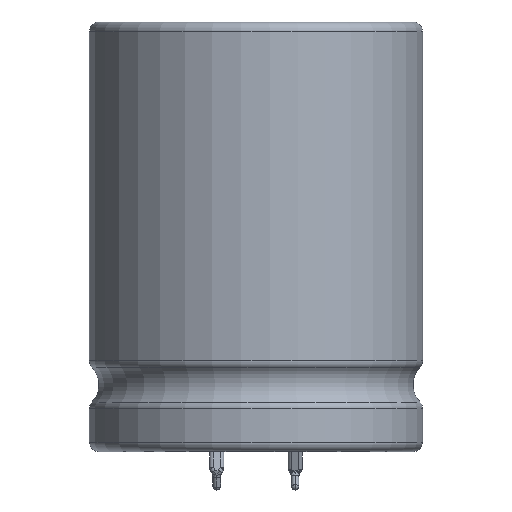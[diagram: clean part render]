
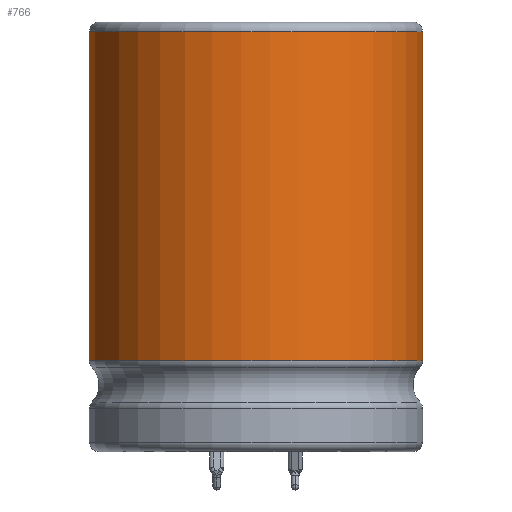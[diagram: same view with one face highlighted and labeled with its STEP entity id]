
A CAD part, left-side view. The second image highlights one B-rep face of the part: STEP entity #766.
In plain terms, the highlighted cylindrical face has radius 17.5 mm (diameter 35 mm), a partial arc.
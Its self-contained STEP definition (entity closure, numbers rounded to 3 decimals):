
#766=ADVANCED_FACE('',(#1050),#974,.T.);
#974=CYLINDRICAL_SURFACE('',#3966,17.5);
#1050=FACE_OUTER_BOUND('',#1245,.T.);
#1245=EDGE_LOOP('',(#1975,#1976,#1977,#1978));
#1467=LINE('',#5532,#1721);
#1468=LINE('',#5536,#1722);
#1721=VECTOR('',#4404,1.);
#1722=VECTOR('',#4407,1.);
#1975=ORIENTED_EDGE('',*,*,#3273,.F.);
#1976=ORIENTED_EDGE('',*,*,#3274,.F.);
#1977=ORIENTED_EDGE('',*,*,#3275,.T.);
#1978=ORIENTED_EDGE('',*,*,#3276,.T.);
#2963=VERTEX_POINT('',#5530);
#2964=VERTEX_POINT('',#5531);
#2965=VERTEX_POINT('',#5533);
#2966=VERTEX_POINT('',#5535);
#3273=EDGE_CURVE('',#2963,#2964,#3767,.T.);
#3274=EDGE_CURVE('',#2965,#2963,#1467,.T.);
#3275=EDGE_CURVE('',#2965,#2966,#3768,.T.);
#3276=EDGE_CURVE('',#2966,#2964,#1468,.T.);
#3767=CIRCLE('',#3964,17.5);
#3768=CIRCLE('',#3965,17.5);
#3964=AXIS2_PLACEMENT_3D('',#5529,#4402,#4403);
#3965=AXIS2_PLACEMENT_3D('',#5534,#4405,#4406);
#3966=AXIS2_PLACEMENT_3D('',#5537,#4408,#4409);
#4402=DIRECTION('',(0.,0.,-1.));
#4403=DIRECTION('',(-1.,0.,0.));
#4404=DIRECTION('',(0.,0.,-1.));
#4405=DIRECTION('',(0.,0.,-1.));
#4406=DIRECTION('',(-1.,0.,0.));
#4407=DIRECTION('',(0.,0.,-1.));
#4408=DIRECTION('',(0.,0.,-1.));
#4409=DIRECTION('',(-1.,0.,0.));
#5529=CARTESIAN_POINT('',(0.,0.,9.5));
#5530=CARTESIAN_POINT('',(7.118,-15.987,9.5));
#5531=CARTESIAN_POINT('',(15.987,-7.118,9.5));
#5532=CARTESIAN_POINT('',(7.118,-15.987,44.));
#5533=CARTESIAN_POINT('',(7.118,-15.987,44.));
#5534=CARTESIAN_POINT('',(0.,0.,44.));
#5535=CARTESIAN_POINT('',(15.987,-7.118,44.));
#5536=CARTESIAN_POINT('',(15.987,-7.118,44.));
#5537=CARTESIAN_POINT('',(0.,0.,0.));
